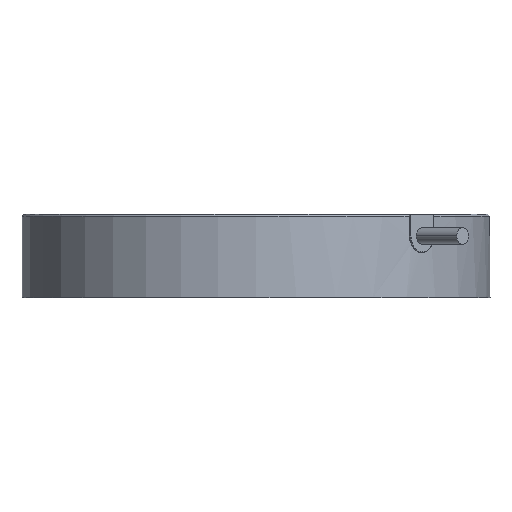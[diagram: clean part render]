
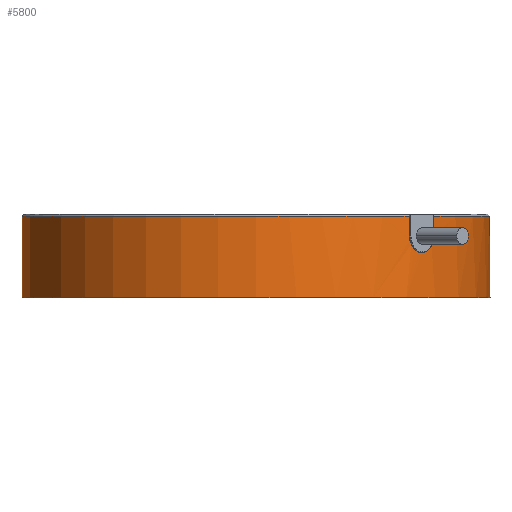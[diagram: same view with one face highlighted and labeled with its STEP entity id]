
A CAD part, front view. The second image highlights one B-rep face of the part: STEP entity #5800.
In plain terms, the highlighted cylindrical face has radius 70 mm (diameter 140 mm), a partial arc.
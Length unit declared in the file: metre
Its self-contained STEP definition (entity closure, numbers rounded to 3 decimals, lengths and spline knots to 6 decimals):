
#1=CARTESIAN_POINT('',(0.052907,-0.045836,-0.0013));
#2=CARTESIAN_POINT('',(0.052907,-0.045836,
-0.001716));
#3=CARTESIAN_POINT('',(0.052838,-0.045915,
-0.002567));
#4=CARTESIAN_POINT('',(0.052508,-0.046293,
-0.003814));
#5=CARTESIAN_POINT('',(0.051938,-0.046934,
-0.004924));
#6=CARTESIAN_POINT('',(0.051187,-0.047753,
-0.005738));
#7=CARTESIAN_POINT('',(0.050334,-0.048652,
-0.006218));
#8=CARTESIAN_POINT('',(0.049383,-0.049617,
-0.006358));
#9=CARTESIAN_POINT('',(0.048442,-0.050536,
-0.006135));
#10=CARTESIAN_POINT('',(0.047589,-0.051339,
-0.005601));
#11=CARTESIAN_POINT('',(0.046872,-0.051993,
-0.004821));
#12=CARTESIAN_POINT('',(0.046306,-0.052496,
-0.003824));
#13=CARTESIAN_POINT('',(0.045929,-0.052826,
-0.002638));
#14=CARTESIAN_POINT('',(0.045836,-0.052907,
-0.001752));
#15=CARTESIAN_POINT('',(0.045836,-0.052907,-0.0013));
#25=DIRECTION('',(0.,0.,-1.));
#26=VECTOR('',#25,0.005898);
#27=CARTESIAN_POINT('',(0.045835,-0.052906,
0.004598));
#28=LINE('',#27,#26);
#29=DIRECTION('',(0.,0.,1.));
#30=VECTOR('',#29,0.005899);
#31=CARTESIAN_POINT('',(0.052907,-0.045836,-0.0013));
#32=LINE('',#31,#30);
#33=DIRECTION('',(0.,0.,-1.));
#34=VECTOR('',#33,0.001401);
#35=CARTESIAN_POINT('',(-0.036699,0.059609,
0.004601));
#36=LINE('',#35,#34);
#37=DIRECTION('',(0.,0.,-1.));
#38=VECTOR('',#37,0.023);
#39=CARTESIAN_POINT('',(-0.036699,0.059609,0.0032));
#40=LINE('',#39,#38);
#41=DIRECTION('',(0.,0.,1.));
#42=VECTOR('',#41,0.023);
#43=CARTESIAN_POINT('',(-0.059609,0.036699,-0.0198));
#44=LINE('',#43,#42);
#45=DIRECTION('',(-0.001,0.001,1.));
#46=VECTOR('',#45,0.0014);
#47=CARTESIAN_POINT('',(-0.059609,0.036699,0.0032));
#48=LINE('',#47,#46);
#54=CARTESIAN_POINT('',(-0.000002,0.000002,
0.004598));
#55=DIRECTION('',(0.,0.,-1.));
#56=DIRECTION('',(0.655,-0.756,0.));
#57=AXIS2_PLACEMENT_3D('',#54,#55,#56);
#59=CARTESIAN_POINT('',(-0.000002,0.000002,
0.0046));
#60=DIRECTION('',(0.,0.,-1.));
#61=DIRECTION('',(0.,-1.,0.));
#62=AXIS2_PLACEMENT_3D('',#59,#60,#61);
#605=CARTESIAN_POINT('',(0.,0.,-0.0198));
#606=DIRECTION('',(0.,0.,1.));
#607=DIRECTION('',(-0.852,0.524,0.));
#608=AXIS2_PLACEMENT_3D('',#605,#606,#607);
#610=CARTESIAN_POINT('',(0.,0.,-0.0198));
#611=DIRECTION('',(0.,0.,1.));
#612=DIRECTION('',(0.,-1.,0.));
#613=AXIS2_PLACEMENT_3D('',#610,#611,#612);
#615=CARTESIAN_POINT('',(0.,0.,-0.0198));
#616=DIRECTION('',(0.,0.,1.));
#617=DIRECTION('',(0.,1.,0.));
#618=AXIS2_PLACEMENT_3D('',#615,#616,#617);
#4377=CARTESIAN_POINT('',(-0.000002,0.000002,
0.004601));
#4378=DIRECTION('',(0.,0.,-1.));
#4379=DIRECTION('',(-0.524,0.852,0.));
#4380=AXIS2_PLACEMENT_3D('',#4377,#4378,#4379);
#4382=CARTESIAN_POINT('',(-0.000002,0.000002,
0.0046));
#4383=DIRECTION('',(0.,0.,-1.));
#4384=DIRECTION('',(0.,1.,0.));
#4385=AXIS2_PLACEMENT_3D('',#4382,#4383,#4384);
#4662=CARTESIAN_POINT('',(0.,0.07,-0.0198));
#4663=CARTESIAN_POINT('',(-0.036699,0.059609,-0.0198));
#4664=VERTEX_POINT('',#4662);
#4665=VERTEX_POINT('',#4663);
#4666=CARTESIAN_POINT('',(0.,-0.07,-0.0198));
#4667=VERTEX_POINT('',#4666);
#4668=CARTESIAN_POINT('',(-0.059609,0.036699,-0.0198));
#4669=VERTEX_POINT('',#4668);
#4897=CARTESIAN_POINT('',(-0.059609,0.036699,0.0032));
#4898=VERTEX_POINT('',#4897);
#4899=CARTESIAN_POINT('',(-0.036699,0.059609,0.0032));
#4900=VERTEX_POINT('',#4899);
#4938=CARTESIAN_POINT('',(0.045835,-0.052906,
0.004598));
#4939=CARTESIAN_POINT('',(0.045836,-0.052907,-0.0013));
#4940=VERTEX_POINT('',#4938);
#4941=VERTEX_POINT('',#4939);
#4959=VERTEX_POINT('',#1);
#4960=CARTESIAN_POINT('',(0.052906,-0.045835,
0.004599));
#4961=VERTEX_POINT('',#4960);
#4962=CARTESIAN_POINT('',(-0.000001,0.070003,
0.0046));
#4963=VERTEX_POINT('',#4962);
#4964=CARTESIAN_POINT('',(-0.036699,0.05961,
0.004601));
#4965=VERTEX_POINT('',#4964);
#4966=CARTESIAN_POINT('',(-0.05961,0.0367,
0.0046));
#4967=VERTEX_POINT('',#4966);
#4968=CARTESIAN_POINT('',(-0.000001,-0.069998,
0.0046));
#4969=VERTEX_POINT('',#4968);
#5766=CARTESIAN_POINT('',(0.,0.,0.00099));
#5767=DIRECTION('',(0.,0.,-1.));
#5768=DIRECTION('',(0.,-1.,0.));
#5769=AXIS2_PLACEMENT_3D('',#5766,#5767,#5768);
#5770=CYLINDRICAL_SURFACE('',#5769,0.07);
#5772=ORIENTED_EDGE('',*,*,#5771,.T.);
#5773=ORIENTED_EDGE('',*,*,#5755,.F.);
#5775=ORIENTED_EDGE('',*,*,#5774,.T.);
#5777=ORIENTED_EDGE('',*,*,#5776,.F.);
#5779=ORIENTED_EDGE('',*,*,#5778,.F.);
#5781=ORIENTED_EDGE('',*,*,#5780,.T.);
#5783=ORIENTED_EDGE('',*,*,#5782,.T.);
#5785=ORIENTED_EDGE('',*,*,#5784,.F.);
#5787=ORIENTED_EDGE('',*,*,#5786,.F.);
#5789=ORIENTED_EDGE('',*,*,#5788,.F.);
#5791=ORIENTED_EDGE('',*,*,#5790,.T.);
#5793=ORIENTED_EDGE('',*,*,#5792,.T.);
#5795=ORIENTED_EDGE('',*,*,#5794,.F.);
#5797=ORIENTED_EDGE('',*,*,#5796,.F.);
#5798=EDGE_LOOP('',(#5772,#5773,#5775,#5777,#5779,#5781,#5783,#5785,#5787,#5789,
#5791,#5793,#5795,#5797));
#5799=FACE_OUTER_BOUND('',#5798,.F.);
#5800=ADVANCED_FACE('',(#5799),#5770,.T.);
#16=B_SPLINE_CURVE_WITH_KNOTS('',3,(#1,#2,#3,#4,#5,#6,#7,#8,#9,#10,#11,#12,#13,
#14,#15),.UNSPECIFIED.,.F.,.F.,(4,1,1,1,1,1,1,1,1,1,1,1,4),(0.,
0.083333,0.166667,0.25,0.333333,0.416667,
0.5,0.583333,0.666667,0.75,0.833333,
0.916667,1.),.UNSPECIFIED.);
#58=CIRCLE('',#57,0.070002);
#63=CIRCLE('',#62,0.07);
#609=CIRCLE('',#608,0.07);
#614=CIRCLE('',#613,0.07);
#619=CIRCLE('',#618,0.07);
#4381=CIRCLE('',#4380,0.069999);
#4386=CIRCLE('',#4385,0.07);
#5755=EDGE_CURVE('',#4959,#4941,#16,.T.);
#5771=EDGE_CURVE('',#4940,#4941,#28,.T.);
#5774=EDGE_CURVE('',#4959,#4961,#32,.T.);
#5776=EDGE_CURVE('',#4963,#4961,#4386,.T.);
#5778=EDGE_CURVE('',#4965,#4963,#4381,.T.);
#5780=EDGE_CURVE('',#4965,#4900,#36,.T.);
#5782=EDGE_CURVE('',#4900,#4665,#40,.T.);
#5784=EDGE_CURVE('',#4664,#4665,#619,.T.);
#5786=EDGE_CURVE('',#4667,#4664,#614,.T.);
#5788=EDGE_CURVE('',#4669,#4667,#609,.T.);
#5790=EDGE_CURVE('',#4669,#4898,#44,.T.);
#5792=EDGE_CURVE('',#4898,#4967,#48,.T.);
#5794=EDGE_CURVE('',#4969,#4967,#63,.T.);
#5796=EDGE_CURVE('',#4940,#4969,#58,.T.);
